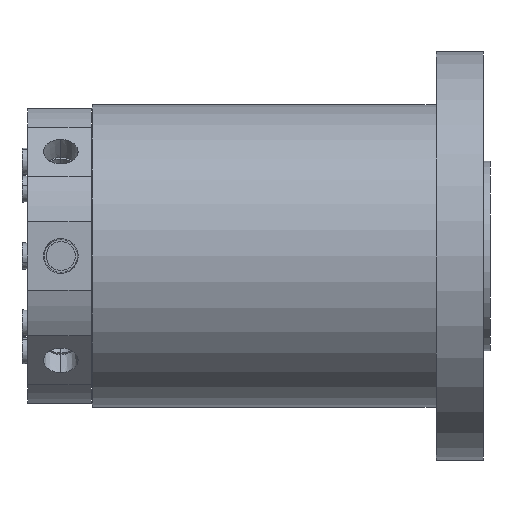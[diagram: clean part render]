
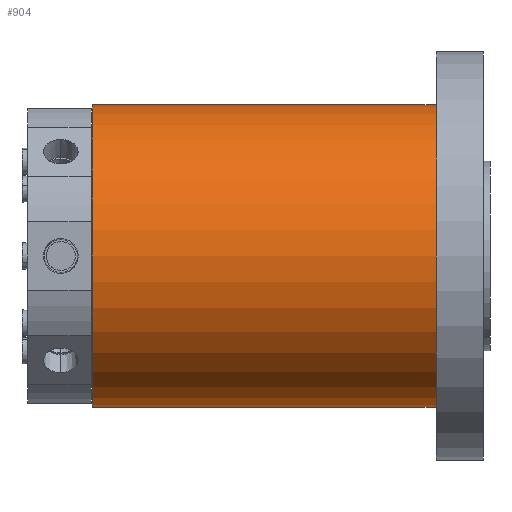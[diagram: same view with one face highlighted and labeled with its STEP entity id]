
A CAD part, left-side view. The second image highlights one B-rep face of the part: STEP entity #904.
In plain terms, the highlighted cylindrical face has radius 57.5 mm (diameter 115 mm), a partial arc.
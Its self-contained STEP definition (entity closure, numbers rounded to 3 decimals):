
#747=CARTESIAN_POINT('',(0.0,20.5,-57.5));
#748=VERTEX_POINT('',#747);
#749=CARTESIAN_POINT('',(0.0,20.5,57.5));
#750=VERTEX_POINT('',#749);
#758=CARTESIAN_POINT('',(0.0,20.5,0.0));
#759=DIRECTION('',(0.0,-1.0,0.0));
#760=DIRECTION('',(0.0,0.0,-1.0));
#761=AXIS2_PLACEMENT_3D('',#758,#759,#760);
#762=CIRCLE('',#761,57.5);
#763=EDGE_CURVE('no 2150',#750,#748,#762,.T.);
#873=CARTESIAN_POINT('',(0.0,151.0,-57.5));
#874=VERTEX_POINT('',#873);
#875=CARTESIAN_POINT('',(0.0,20.5,-57.5));
#876=DIRECTION('',(0.0,1.0,0.0));
#877=VECTOR('',#876,1.0);
#878=LINE('',#875,#877);
#879=EDGE_CURVE('no 2225',#748,#874,#878,.T.);
#880=ORIENTED_EDGE('',*,*,#879,.F.);
#881=ORIENTED_EDGE('',*,*,#763,.F.);
#882=CARTESIAN_POINT('',(0.0,151.0,57.5));
#883=VERTEX_POINT('',#882);
#884=CARTESIAN_POINT('',(0.0,20.5,57.5));
#885=DIRECTION('',(0.0,1.0,0.0));
#886=VECTOR('',#885,1.0);
#887=LINE('',#884,#886);
#888=EDGE_CURVE('no 2233',#750,#883,#887,.T.);
#889=ORIENTED_EDGE('',*,*,#888,.T.);
#890=CARTESIAN_POINT('',(0.0,151.0,0.0));
#891=DIRECTION('',(0.0,1.0,0.0));
#892=DIRECTION('',(0.0,0.0,1.0));
#893=AXIS2_PLACEMENT_3D('',#890,#891,#892);
#894=CIRCLE('',#893,57.5);
#895=EDGE_CURVE('no 2237',#874,#883,#894,.T.);
#896=ORIENTED_EDGE('',*,*,#895,.F.);
#897=EDGE_LOOP('',(#880,#881,#889,#896));
#898=FACE_OUTER_BOUND('',#897,.T.);
#899=CARTESIAN_POINT('',(0.0,20.5,0.0));
#900=DIRECTION('',(0.0,1.0,0.0));
#901=DIRECTION('',(1.0,0.0,0.0));
#902=AXIS2_PLACEMENT_3D('',#899,#900,#901);
#903=CYLINDRICAL_SURFACE('',#902,57.5);
#904=ADVANCED_FACE('no 2218',(#898),#903,.T.);
